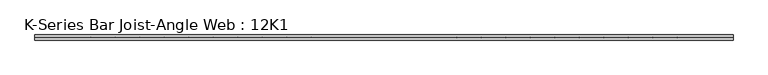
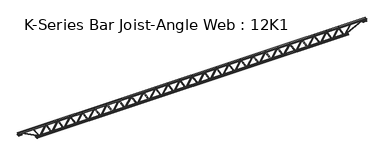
"""IFC4 building model written with IfcOpenShell, lengths in millimetres: beam geometry, K-Series Bar Joist-Angle Web : 12K1."""

from ifc_helpers import new_model, si_unit, frame, origin, place, context, project, spatial, polyline, outline, extrude, faceted_brep, source, transform, mapped, element, save


def k_series_bar_joist_angle_web_12k1_3e4be9d7(model_context):
    return source(origin(), model_context, "Body", "SolidModel", [
        extrude(outline(polyline([(-4.7625, 4.7625), (-4.7625, 0.0), (-17.4625, 0.0), (-17.4625, 4.7625), (-4.7625, 4.7625)])), frame((3964.6713599, 0.0, -114.3), z_axis=(-0.4994326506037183, 0.0, 0.8663527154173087), x_axis=(0.0, -1.0, 0.0)), (0.0, 0.0, 1.0), 263.8648162),
        extrude(outline(polyline([(-149.225, 3996.65825), (-130.175, 3996.65825), (-130.175, 3995.8116713), (149.225, 3834.7439213), (149.225, 3816.5405), (130.175, 3816.5405), (130.175, 3823.7370787), (-149.225, 3984.8048287), (-149.225, 3996.65825)])), frame((0.0, 0.0, 0.0), z_axis=(0.0, 1.0, 0.0), x_axis=(0.0, 0.0, 1.0)), (0.0, 0.0, 1.0), 4.7625),
        faceted_brep([(3649.12275, 0.0, -130.175), (3649.12275, 0.0, -149.225), (3649.12275, -4.7625, -149.225), (3649.12275, -4.7625, -130.175), (3649.9693287, 0.0, -130.175), (3811.0370787, 0.0, 149.225), (3829.2405, 0.0, 149.225), (3829.2405, 0.0, 130.175), (3822.0439213, 0.0, 130.175), (3660.9761713, 0.0, -149.225), (3660.9761713, -4.7625, -149.225), (3681.1096401, -4.7625, -114.3), (3676.9836353, -4.7625, -111.921452), (3808.7663398, -4.7625, 116.678548), (3812.8923446, -4.7625, 114.3), (3822.0439213, -4.7625, 130.175), (3829.2405, -4.7625, 130.175), (3829.2405, -4.7625, 149.225), (3811.0370787, -4.7625, 149.225), (3649.9693287, -4.7625, -130.175), (3812.8923446, -17.4625, 114.3), (3681.1096401, -17.4625, -114.3), (3676.9836353, -17.4625, -111.921452), (3808.7663398, -17.4625, 116.678548)], [[[0, 1, 2, 3]], [[1, 0, 4, 5, 6, 7, 8, 9]], [[2, 1, 9, 10]], [[3, 2, 10, 11, 12, 13, 14, 15, 16, 17, 18, 19]], [[0, 3, 19, 4]], [[9, 8, 15, 14, 20, 21, 11, 10]], [[5, 4, 19, 18]], [[7, 6, 17, 16]], [[8, 7, 16, 15]], [[6, 5, 18, 17]], [[21, 22, 12, 11]], [[20, 14, 13, 23]], [[22, 21, 20, 23]], [[12, 22, 23, 13]]]),
        extrude(outline(polyline([(-4.7625, 4.7625), (-4.7625, 0.0), (-17.4625, 0.0), (-17.4625, 4.7625), (-4.7625, 4.7625)])), frame((3617.1358599, 0.0, -114.3), z_axis=(-0.4994326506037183, 0.0, 0.8663527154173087), x_axis=(0.0, -1.0, 0.0)), (0.0, 0.0, 1.0), 263.8648162),
        extrude(outline(polyline([(-149.225, 3649.12275), (-130.175, 3649.12275), (-130.175, 3648.2761713), (149.225, 3487.2084213), (149.225, 3469.005), (130.175, 3469.005), (130.175, 3476.2015787), (-149.225, 3637.2693287), (-149.225, 3649.12275)])), frame((0.0, 0.0, 0.0), z_axis=(0.0, 1.0, 0.0), x_axis=(0.0, 0.0, 1.0)), (0.0, 0.0, 1.0), 4.7625),
        faceted_brep([(3301.58725, 0.0, -130.175), (3301.58725, 0.0, -149.225), (3301.58725, -4.7625, -149.225), (3301.58725, -4.7625, -130.175), (3302.4338287, 0.0, -130.175), (3463.5015787, 0.0, 149.225), (3481.705, 0.0, 149.225), (3481.705, 0.0, 130.175), (3474.5084213, 0.0, 130.175), (3313.4406713, 0.0, -149.225), (3313.4406713, -4.7625, -149.225), (3333.5741401, -4.7625, -114.3), (3329.4481353, -4.7625, -111.921452), (3461.2308398, -4.7625, 116.678548), (3465.3568446, -4.7625, 114.3), (3474.5084213, -4.7625, 130.175), (3481.705, -4.7625, 130.175), (3481.705, -4.7625, 149.225), (3463.5015787, -4.7625, 149.225), (3302.4338287, -4.7625, -130.175), (3465.3568446, -17.4625, 114.3), (3333.5741401, -17.4625, -114.3), (3329.4481353, -17.4625, -111.921452), (3461.2308398, -17.4625, 116.678548)], [[[0, 1, 2, 3]], [[1, 0, 4, 5, 6, 7, 8, 9]], [[2, 1, 9, 10]], [[3, 2, 10, 11, 12, 13, 14, 15, 16, 17, 18, 19]], [[0, 3, 19, 4]], [[9, 8, 15, 14, 20, 21, 11, 10]], [[5, 4, 19, 18]], [[7, 6, 17, 16]], [[8, 7, 16, 15]], [[6, 5, 18, 17]], [[21, 22, 12, 11]], [[20, 14, 13, 23]], [[22, 21, 20, 23]], [[12, 22, 23, 13]]]),
        extrude(outline(polyline([(-4.7625, 4.7625), (-4.7625, 0.0), (-17.4625, 0.0), (-17.4625, 4.7625), (-4.7625, 4.7625)])), frame((3269.6003599, 0.0, -114.3), z_axis=(-0.4994326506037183, 0.0, 0.8663527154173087), x_axis=(0.0, -1.0, 0.0)), (0.0, 0.0, 1.0), 263.8648162),
        extrude(outline(polyline([(-149.225, 3301.58725), (-130.175, 3301.58725), (-130.175, 3300.7406713), (149.225, 3139.6729213), (149.225, 3121.4695), (130.175, 3121.4695), (130.175, 3128.6660787), (-149.225, 3289.7338287), (-149.225, 3301.58725)])), frame((0.0, 0.0, 0.0), z_axis=(0.0, 1.0, 0.0), x_axis=(0.0, 0.0, 1.0)), (0.0, 0.0, 1.0), 4.7625),
        faceted_brep([(2954.05175, 0.0, -130.175), (2954.05175, 0.0, -149.225), (2954.05175, -4.7625, -149.225), (2954.05175, -4.7625, -130.175), (2954.8983287, 0.0, -130.175), (3115.9660787, 0.0, 149.225), (3134.1695, 0.0, 149.225), (3134.1695, 0.0, 130.175), (3126.9729213, 0.0, 130.175), (2965.9051713, 0.0, -149.225), (2965.9051713, -4.7625, -149.225), (2986.0386401, -4.7625, -114.3), (2981.9126353, -4.7625, -111.921452), (3113.6953398, -4.7625, 116.678548), (3117.8213446, -4.7625, 114.3), (3126.9729213, -4.7625, 130.175), (3134.1695, -4.7625, 130.175), (3134.1695, -4.7625, 149.225), (3115.9660787, -4.7625, 149.225), (2954.8983287, -4.7625, -130.175), (3117.8213446, -17.4625, 114.3), (2986.0386401, -17.4625, -114.3), (2981.9126353, -17.4625, -111.921452), (3113.6953398, -17.4625, 116.678548)], [[[0, 1, 2, 3]], [[1, 0, 4, 5, 6, 7, 8, 9]], [[2, 1, 9, 10]], [[3, 2, 10, 11, 12, 13, 14, 15, 16, 17, 18, 19]], [[0, 3, 19, 4]], [[9, 8, 15, 14, 20, 21, 11, 10]], [[5, 4, 19, 18]], [[7, 6, 17, 16]], [[8, 7, 16, 15]], [[6, 5, 18, 17]], [[21, 22, 12, 11]], [[20, 14, 13, 23]], [[22, 21, 20, 23]], [[12, 22, 23, 13]]]),
        extrude(outline(polyline([(-4.7625, 4.7625), (-4.7625, 0.0), (-17.4625, 0.0), (-17.4625, 4.7625), (-4.7625, 4.7625)])), frame((2922.0648599, 0.0, -114.3), z_axis=(-0.4994326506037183, 0.0, 0.8663527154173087), x_axis=(0.0, -1.0, 0.0)), (0.0, 0.0, 1.0), 263.8648162),
        extrude(outline(polyline([(-149.225, 2954.05175), (-130.175, 2954.05175), (-130.175, 2953.2051713), (149.225, 2792.1374213), (149.225, 2773.934), (130.175, 2773.934), (130.175, 2781.1305787), (-149.225, 2942.1983287), (-149.225, 2954.05175)])), frame((0.0, 0.0, 0.0), z_axis=(0.0, 1.0, 0.0), x_axis=(0.0, 0.0, 1.0)), (0.0, 0.0, 1.0), 4.7625),
        faceted_brep([(2606.51625, 0.0, -130.175), (2606.51625, 0.0, -149.225), (2606.51625, -4.7625, -149.225), (2606.51625, -4.7625, -130.175), (2607.3628287, 0.0, -130.175), (2768.4305787, 0.0, 149.225), (2786.634, 0.0, 149.225), (2786.634, 0.0, 130.175), (2779.4374213, 0.0, 130.175), (2618.3696713, 0.0, -149.225), (2618.3696713, -4.7625, -149.225), (2638.5031401, -4.7625, -114.3), (2634.3771353, -4.7625, -111.921452), (2766.1598398, -4.7625, 116.678548), (2770.2858446, -4.7625, 114.3), (2779.4374213, -4.7625, 130.175), (2786.634, -4.7625, 130.175), (2786.634, -4.7625, 149.225), (2768.4305787, -4.7625, 149.225), (2607.3628287, -4.7625, -130.175), (2770.2858446, -17.4625, 114.3), (2638.5031401, -17.4625, -114.3), (2634.3771353, -17.4625, -111.921452), (2766.1598398, -17.4625, 116.678548)], [[[0, 1, 2, 3]], [[1, 0, 4, 5, 6, 7, 8, 9]], [[2, 1, 9, 10]], [[3, 2, 10, 11, 12, 13, 14, 15, 16, 17, 18, 19]], [[0, 3, 19, 4]], [[9, 8, 15, 14, 20, 21, 11, 10]], [[5, 4, 19, 18]], [[7, 6, 17, 16]], [[8, 7, 16, 15]], [[6, 5, 18, 17]], [[21, 22, 12, 11]], [[20, 14, 13, 23]], [[22, 21, 20, 23]], [[12, 22, 23, 13]]]),
        extrude(outline(polyline([(-4.7625, 4.7625), (-4.7625, 0.0), (-17.4625, 0.0), (-17.4625, 4.7625), (-4.7625, 4.7625)])), frame((2574.5293599, 0.0, -114.3), z_axis=(-0.4994326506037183, 0.0, 0.8663527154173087), x_axis=(0.0, -1.0, 0.0)), (0.0, 0.0, 1.0), 263.8648162),
        extrude(outline(polyline([(-149.225, 2606.51625), (-130.175, 2606.51625), (-130.175, 2605.6696713), (149.225, 2444.6019213), (149.225, 2426.3985), (130.175, 2426.3985), (130.175, 2433.5950787), (-149.225, 2594.6628287), (-149.225, 2606.51625)])), frame((0.0, 0.0, 0.0), z_axis=(0.0, 1.0, 0.0), x_axis=(0.0, 0.0, 1.0)), (0.0, 0.0, 1.0), 4.7625),
        faceted_brep([(2258.98075, 0.0, -130.175), (2258.98075, 0.0, -149.225), (2258.98075, -4.7625, -149.225), (2258.98075, -4.7625, -130.175), (2259.8273287, 0.0, -130.175), (2420.8950787, 0.0, 149.225), (2439.0985, 0.0, 149.225), (2439.0985, 0.0, 130.175), (2431.9019213, 0.0, 130.175), (2270.8341713, 0.0, -149.225), (2270.8341713, -4.7625, -149.225), (2290.9676401, -4.7625, -114.3), (2286.8416353, -4.7625, -111.921452), (2418.6243398, -4.7625, 116.678548), (2422.7503446, -4.7625, 114.3), (2431.9019213, -4.7625, 130.175), (2439.0985, -4.7625, 130.175), (2439.0985, -4.7625, 149.225), (2420.8950787, -4.7625, 149.225), (2259.8273287, -4.7625, -130.175), (2422.7503446, -17.4625, 114.3), (2290.9676401, -17.4625, -114.3), (2286.8416353, -17.4625, -111.921452), (2418.6243398, -17.4625, 116.678548)], [[[0, 1, 2, 3]], [[1, 0, 4, 5, 6, 7, 8, 9]], [[2, 1, 9, 10]], [[3, 2, 10, 11, 12, 13, 14, 15, 16, 17, 18, 19]], [[0, 3, 19, 4]], [[9, 8, 15, 14, 20, 21, 11, 10]], [[5, 4, 19, 18]], [[7, 6, 17, 16]], [[8, 7, 16, 15]], [[6, 5, 18, 17]], [[21, 22, 12, 11]], [[20, 14, 13, 23]], [[22, 21, 20, 23]], [[12, 22, 23, 13]]]),
        extrude(outline(polyline([(-4.7625, 4.7625), (-4.7625, 0.0), (-17.4625, 0.0), (-17.4625, 4.7625), (-4.7625, 4.7625)])), frame((2226.9938599, 0.0, -114.3), z_axis=(-0.4994326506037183, 0.0, 0.8663527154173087), x_axis=(0.0, -1.0, 0.0)), (0.0, 0.0, 1.0), 263.8648162),
        extrude(outline(polyline([(-149.225, 2258.98075), (-130.175, 2258.98075), (-130.175, 2258.1341713), (149.225, 2097.0664213), (149.225, 2078.863), (130.175, 2078.863), (130.175, 2086.0595787), (-149.225, 2247.1273287), (-149.225, 2258.98075)])), frame((0.0, 0.0, 0.0), z_axis=(0.0, 1.0, 0.0), x_axis=(0.0, 0.0, 1.0)), (0.0, 0.0, 1.0), 4.7625),
        faceted_brep([(1911.44525, 0.0, -130.175), (1911.44525, 0.0, -149.225), (1911.44525, -4.7625, -149.225), (1911.44525, -4.7625, -130.175), (1912.2918287, 0.0, -130.175), (2073.3595787, 0.0, 149.225), (2091.563, 0.0, 149.225), (2091.563, 0.0, 130.175), (2084.3664213, 0.0, 130.175), (1923.2986713, 0.0, -149.225), (1923.2986713, -4.7625, -149.225), (1943.4321401, -4.7625, -114.3), (1939.3061353, -4.7625, -111.921452), (2071.0888398, -4.7625, 116.678548), (2075.2148446, -4.7625, 114.3), (2084.3664213, -4.7625, 130.175), (2091.563, -4.7625, 130.175), (2091.563, -4.7625, 149.225), (2073.3595787, -4.7625, 149.225), (1912.2918287, -4.7625, -130.175), (2075.2148446, -17.4625, 114.3), (1943.4321401, -17.4625, -114.3), (1939.3061353, -17.4625, -111.921452), (2071.0888398, -17.4625, 116.678548)], [[[0, 1, 2, 3]], [[1, 0, 4, 5, 6, 7, 8, 9]], [[2, 1, 9, 10]], [[3, 2, 10, 11, 12, 13, 14, 15, 16, 17, 18, 19]], [[0, 3, 19, 4]], [[9, 8, 15, 14, 20, 21, 11, 10]], [[5, 4, 19, 18]], [[7, 6, 17, 16]], [[8, 7, 16, 15]], [[6, 5, 18, 17]], [[21, 22, 12, 11]], [[20, 14, 13, 23]], [[22, 21, 20, 23]], [[12, 22, 23, 13]]]),
        extrude(outline(polyline([(-4.7625, 4.7625), (-4.7625, 0.0), (-17.4625, 0.0), (-17.4625, 4.7625), (-4.7625, 4.7625)])), frame((1879.4583599, 0.0, -114.3), z_axis=(-0.4994326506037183, 0.0, 0.8663527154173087), x_axis=(0.0, -1.0, 0.0)), (0.0, 0.0, 1.0), 263.8648162),
        extrude(outline(polyline([(-149.225, 1911.44525), (-130.175, 1911.44525), (-130.175, 1910.5986713), (149.225, 1749.5309213), (149.225, 1731.3275), (130.175, 1731.3275), (130.175, 1738.5240787), (-149.225, 1899.5918287), (-149.225, 1911.44525)])), frame((0.0, 0.0, 0.0), z_axis=(0.0, 1.0, 0.0), x_axis=(0.0, 0.0, 1.0)), (0.0, 0.0, 1.0), 4.7625),
        faceted_brep([(1563.90975, 0.0, -130.175), (1563.90975, 0.0, -149.225), (1563.90975, -4.7625, -149.225), (1563.90975, -4.7625, -130.175), (1564.7563287, 0.0, -130.175), (1725.8240787, 0.0, 149.225), (1744.0275, 0.0, 149.225), (1744.0275, 0.0, 130.175), (1736.8309213, 0.0, 130.175), (1575.7631713, 0.0, -149.225), (1575.7631713, -4.7625, -149.225), (1595.8966401, -4.7625, -114.3), (1591.7706353, -4.7625, -111.921452), (1723.5533398, -4.7625, 116.678548), (1727.6793446, -4.7625, 114.3), (1736.8309213, -4.7625, 130.175), (1744.0275, -4.7625, 130.175), (1744.0275, -4.7625, 149.225), (1725.8240787, -4.7625, 149.225), (1564.7563287, -4.7625, -130.175), (1727.6793446, -17.4625, 114.3), (1595.8966401, -17.4625, -114.3), (1591.7706353, -17.4625, -111.921452), (1723.5533398, -17.4625, 116.678548)], [[[0, 1, 2, 3]], [[1, 0, 4, 5, 6, 7, 8, 9]], [[2, 1, 9, 10]], [[3, 2, 10, 11, 12, 13, 14, 15, 16, 17, 18, 19]], [[0, 3, 19, 4]], [[9, 8, 15, 14, 20, 21, 11, 10]], [[5, 4, 19, 18]], [[7, 6, 17, 16]], [[8, 7, 16, 15]], [[6, 5, 18, 17]], [[21, 22, 12, 11]], [[20, 14, 13, 23]], [[22, 21, 20, 23]], [[12, 22, 23, 13]]]),
        extrude(outline(polyline([(-4.7625, 4.7625), (-4.7625, 0.0), (-17.4625, 0.0), (-17.4625, 4.7625), (-4.7625, 4.7625)])), frame((1531.9228599, 0.0, -114.3), z_axis=(-0.4994326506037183, 0.0, 0.8663527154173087), x_axis=(0.0, -1.0, 0.0)), (0.0, 0.0, 1.0), 263.8648162),
        extrude(outline(polyline([(-149.225, 1563.90975), (-130.175, 1563.90975), (-130.175, 1563.0631713), (149.225, 1401.9954213), (149.225, 1383.792), (130.175, 1383.792), (130.175, 1390.9885787), (-149.225, 1552.0563287), (-149.225, 1563.90975)])), frame((0.0, 0.0, 0.0), z_axis=(0.0, 1.0, 0.0), x_axis=(0.0, 0.0, 1.0)), (0.0, 0.0, 1.0), 4.7625),
        faceted_brep([(1216.37425, 0.0, -130.175), (1216.37425, 0.0, -149.225), (1216.37425, -4.7625, -149.225), (1216.37425, -4.7625, -130.175), (1217.2208287, 0.0, -130.175), (1378.2885787, 0.0, 149.225), (1396.492, 0.0, 149.225), (1396.492, 0.0, 130.175), (1389.2954213, 0.0, 130.175), (1228.2276713, 0.0, -149.225), (1228.2276713, -4.7625, -149.225), (1248.3611401, -4.7625, -114.3), (1244.2351353, -4.7625, -111.921452), (1376.0178398, -4.7625, 116.678548), (1380.1438446, -4.7625, 114.3), (1389.2954213, -4.7625, 130.175), (1396.492, -4.7625, 130.175), (1396.492, -4.7625, 149.225), (1378.2885787, -4.7625, 149.225), (1217.2208287, -4.7625, -130.175), (1380.1438446, -17.4625, 114.3), (1248.3611401, -17.4625, -114.3), (1244.2351353, -17.4625, -111.921452), (1376.0178398, -17.4625, 116.678548)], [[[0, 1, 2, 3]], [[1, 0, 4, 5, 6, 7, 8, 9]], [[2, 1, 9, 10]], [[3, 2, 10, 11, 12, 13, 14, 15, 16, 17, 18, 19]], [[0, 3, 19, 4]], [[9, 8, 15, 14, 20, 21, 11, 10]], [[5, 4, 19, 18]], [[7, 6, 17, 16]], [[8, 7, 16, 15]], [[6, 5, 18, 17]], [[21, 22, 12, 11]], [[20, 14, 13, 23]], [[22, 21, 20, 23]], [[12, 22, 23, 13]]]),
        extrude(outline(polyline([(-4.7625, 4.7625), (-4.7625, 0.0), (-17.4625, 0.0), (-17.4625, 4.7625), (-4.7625, 4.7625)])), frame((1184.3873599, 0.0, -114.3), z_axis=(-0.4994326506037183, 0.0, 0.8663527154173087), x_axis=(0.0, -1.0, 0.0)), (0.0, 0.0, 1.0), 263.8648162),
        extrude(outline(polyline([(-149.225, 1216.37425), (-130.175, 1216.37425), (-130.175, 1215.5276713), (149.225, 1054.4599213), (149.225, 1036.2565), (130.175, 1036.2565), (130.175, 1043.4530787), (-149.225, 1204.5208287), (-149.225, 1216.37425)])), frame((0.0, 0.0, 0.0), z_axis=(0.0, 1.0, 0.0), x_axis=(0.0, 0.0, 1.0)), (0.0, 0.0, 1.0), 4.7625),
        faceted_brep([(868.83875, 0.0, -130.175), (868.83875, 0.0, -149.225), (868.83875, -4.7625, -149.225), (868.83875, -4.7625, -130.175), (869.6853287, 0.0, -130.175), (1030.7530787, 0.0, 149.225), (1048.9565, 0.0, 149.225), (1048.9565, 0.0, 130.175), (1041.7599213, 0.0, 130.175), (880.6921713, 0.0, -149.225), (880.6921713, -4.7625, -149.225), (900.8256401, -4.7625, -114.3), (896.6996353, -4.7625, -111.921452), (1028.4823398, -4.7625, 116.678548), (1032.6083446, -4.7625, 114.3), (1041.7599213, -4.7625, 130.175), (1048.9565, -4.7625, 130.175), (1048.9565, -4.7625, 149.225), (1030.7530787, -4.7625, 149.225), (869.6853287, -4.7625, -130.175), (1032.6083446, -17.4625, 114.3), (900.8256401, -17.4625, -114.3), (896.6996353, -17.4625, -111.921452), (1028.4823398, -17.4625, 116.678548)], [[[0, 1, 2, 3]], [[1, 0, 4, 5, 6, 7, 8, 9]], [[2, 1, 9, 10]], [[3, 2, 10, 11, 12, 13, 14, 15, 16, 17, 18, 19]], [[0, 3, 19, 4]], [[9, 8, 15, 14, 20, 21, 11, 10]], [[5, 4, 19, 18]], [[7, 6, 17, 16]], [[8, 7, 16, 15]], [[6, 5, 18, 17]], [[21, 22, 12, 11]], [[20, 14, 13, 23]], [[22, 21, 20, 23]], [[12, 22, 23, 13]]]),
        extrude(outline(polyline([(-4.7625, 4.7625), (-4.7625, 0.0), (-17.4625, 0.0), (-17.4625, 4.7625), (-4.7625, 4.7625)])), frame((836.8518599, 0.0, -114.3), z_axis=(-0.4994326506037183, 0.0, 0.8663527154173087), x_axis=(0.0, -1.0, 0.0)), (0.0, 0.0, 1.0), 263.8648162),
        extrude(outline(polyline([(-149.225, 868.83875), (-130.175, 868.83875), (-130.175, 867.9921713), (149.225, 706.9244213), (149.225, 688.721), (130.175, 688.721), (130.175, 695.9175787), (-149.225, 856.9853287), (-149.225, 868.83875)])), frame((0.0, 0.0, 0.0), z_axis=(0.0, 1.0, 0.0), x_axis=(0.0, 0.0, 1.0)), (0.0, 0.0, 1.0), 4.7625),
        faceted_brep([(521.30325, 0.0, -130.175), (521.30325, 0.0, -149.225), (521.30325, -4.7625, -149.225), (521.30325, -4.7625, -130.175), (522.1498287, 0.0, -130.175), (683.2175787, 0.0, 149.225), (701.421, 0.0, 149.225), (701.421, 0.0, 130.175), (694.2244213, 0.0, 130.175), (533.1566713, 0.0, -149.225), (533.1566713, -4.7625, -149.225), (553.2901401, -4.7625, -114.3), (549.1641353, -4.7625, -111.921452), (680.9468398, -4.7625, 116.678548), (685.0728446, -4.7625, 114.3), (694.2244213, -4.7625, 130.175), (701.421, -4.7625, 130.175), (701.421, -4.7625, 149.225), (683.2175787, -4.7625, 149.225), (522.1498287, -4.7625, -130.175), (685.0728446, -17.4625, 114.3), (553.2901401, -17.4625, -114.3), (549.1641353, -17.4625, -111.921452), (680.9468398, -17.4625, 116.678548)], [[[0, 1, 2, 3]], [[1, 0, 4, 5, 6, 7, 8, 9]], [[2, 1, 9, 10]], [[3, 2, 10, 11, 12, 13, 14, 15, 16, 17, 18, 19]], [[0, 3, 19, 4]], [[9, 8, 15, 14, 20, 21, 11, 10]], [[5, 4, 19, 18]], [[7, 6, 17, 16]], [[8, 7, 16, 15]], [[6, 5, 18, 17]], [[21, 22, 12, 11]], [[20, 14, 13, 23]], [[22, 21, 20, 23]], [[12, 22, 23, 13]]]),
        extrude(outline(polyline([(-4.7625, 4.7625), (-4.7625, 0.0), (-17.4625, 0.0), (-17.4625, 4.7625), (-4.7625, 4.7625)])), frame((489.3163599, 0.0, -114.3), z_axis=(-0.4994326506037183, 0.0, 0.8663527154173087), x_axis=(0.0, -1.0, 0.0)), (0.0, 0.0, 1.0), 263.8648162),
        extrude(outline(polyline([(-149.225, 521.30325), (-130.175, 521.30325), (-130.175, 520.4566713), (149.225, 359.3889213), (149.225, 341.1855), (130.175, 341.1855), (130.175, 348.3820787), (-149.225, 509.4498287), (-149.225, 521.30325)])), frame((0.0, 0.0, 0.0), z_axis=(0.0, 1.0, 0.0), x_axis=(0.0, 0.0, 1.0)), (0.0, 0.0, 1.0), 4.7625),
        faceted_brep([(173.76775, 0.0, -130.175), (173.76775, 0.0, -149.225), (173.76775, -4.7625, -149.225), (173.76775, -4.7625, -130.175), (174.6143287, 0.0, -130.175), (335.6820787, 0.0, 149.225), (353.8855, 0.0, 149.225), (353.8855, 0.0, 130.175), (346.6889213, 0.0, 130.175), (185.6211713, 0.0, -149.225), (185.6211713, -4.7625, -149.225), (205.7546401, -4.7625, -114.3), (201.6286353, -4.7625, -111.921452), (333.4113398, -4.7625, 116.678548), (337.5373446, -4.7625, 114.3), (346.6889213, -4.7625, 130.175), (353.8855, -4.7625, 130.175), (353.8855, -4.7625, 149.225), (335.6820787, -4.7625, 149.225), (174.6143287, -4.7625, -130.175), (337.5373446, -17.4625, 114.3), (205.7546401, -17.4625, -114.3), (201.6286353, -17.4625, -111.921452), (333.4113398, -17.4625, 116.678548)], [[[0, 1, 2, 3]], [[1, 0, 4, 5, 6, 7, 8, 9]], [[2, 1, 9, 10]], [[3, 2, 10, 11, 12, 13, 14, 15, 16, 17, 18, 19]], [[0, 3, 19, 4]], [[9, 8, 15, 14, 20, 21, 11, 10]], [[5, 4, 19, 18]], [[7, 6, 17, 16]], [[8, 7, 16, 15]], [[6, 5, 18, 17]], [[21, 22, 12, 11]], [[20, 14, 13, 23]], [[22, 21, 20, 23]], [[12, 22, 23, 13]]]),
        extrude(outline(polyline([(-4.7625, 4.7625), (-4.7625, 0.0), (-17.4625, 0.0), (-17.4625, 4.7625), (-4.7625, 4.7625)])), frame((141.7808599, 0.0, -114.3), z_axis=(-0.4994326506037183, 0.0, 0.8663527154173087), x_axis=(0.0, -1.0, 0.0)), (0.0, 0.0, 1.0), 263.8648162),
        extrude(outline(polyline([(-149.225, 173.76775), (-130.175, 173.76775), (-130.175, 172.9211713), (149.225, 11.8534213), (149.225, -6.35), (130.175, -6.35), (130.175, 0.8465787), (-149.225, 161.9143287), (-149.225, 173.76775)])), frame((0.0, 0.0, 0.0), z_axis=(0.0, 1.0, 0.0), x_axis=(0.0, 0.0, 1.0)), (0.0, 0.0, 1.0), 4.7625),
        faceted_brep([(-173.76775, 0.0, -130.175), (-173.76775, 0.0, -149.225), (-173.76775, -4.7625, -149.225), (-173.76775, -4.7625, -130.175), (-172.9211713, 0.0, -130.175), (-11.8534213, 0.0, 149.225), (6.35, 0.0, 149.225), (6.35, 0.0, 130.175), (-0.8465787, 0.0, 130.175), (-161.9143287, 0.0, -149.225), (-161.9143287, -4.7625, -149.225), (-141.7808599, -4.7625, -114.3), (-145.9068647, -4.7625, -111.921452), (-14.1241602, -4.7625, 116.678548), (-9.9981554, -4.7625, 114.3), (-0.8465787, -4.7625, 130.175), (6.35, -4.7625, 130.175), (6.35, -4.7625, 149.225), (-11.8534213, -4.7625, 149.225), (-172.9211713, -4.7625, -130.175), (-9.9981554, -17.4625, 114.3), (-141.7808599, -17.4625, -114.3), (-145.9068647, -17.4625, -111.921452), (-14.1241602, -17.4625, 116.678548)], [[[0, 1, 2, 3]], [[1, 0, 4, 5, 6, 7, 8, 9]], [[2, 1, 9, 10]], [[3, 2, 10, 11, 12, 13, 14, 15, 16, 17, 18, 19]], [[0, 3, 19, 4]], [[9, 8, 15, 14, 20, 21, 11, 10]], [[5, 4, 19, 18]], [[7, 6, 17, 16]], [[8, 7, 16, 15]], [[6, 5, 18, 17]], [[21, 22, 12, 11]], [[20, 14, 13, 23]], [[22, 21, 20, 23]], [[12, 22, 23, 13]]]),
        extrude(outline(polyline([(-4.7625, 4.7625), (-4.7625, 0.0), (-17.4625, 0.0), (-17.4625, 4.7625), (-4.7625, 4.7625)])), frame((-205.7546401, 0.0, -114.3), z_axis=(-0.4994326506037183, 0.0, 0.8663527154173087), x_axis=(0.0, -1.0, 0.0)), (0.0, 0.0, 1.0), 263.8648162),
        extrude(outline(polyline([(-149.225, -173.76775), (-130.175, -173.76775), (-130.175, -174.6143287), (149.225, -335.6820787), (149.225, -353.8855), (130.175, -353.8855), (130.175, -346.6889213), (-149.225, -185.6211713), (-149.225, -173.76775)])), frame((0.0, 0.0, 0.0), z_axis=(0.0, 1.0, 0.0), x_axis=(0.0, 0.0, 1.0)), (0.0, 0.0, 1.0), 4.7625),
        faceted_brep([(-521.30325, 0.0, -130.175), (-521.30325, 0.0, -149.225), (-521.30325, -4.7625, -149.225), (-521.30325, -4.7625, -130.175), (-520.4566713, 0.0, -130.175), (-359.3889213, 0.0, 149.225), (-341.1855, 0.0, 149.225), (-341.1855, 0.0, 130.175), (-348.3820787, 0.0, 130.175), (-509.4498287, 0.0, -149.225), (-509.4498287, -4.7625, -149.225), (-489.3163599, -4.7625, -114.3), (-493.4423647, -4.7625, -111.921452), (-361.6596602, -4.7625, 116.678548), (-357.5336554, -4.7625, 114.3), (-348.3820787, -4.7625, 130.175), (-341.1855, -4.7625, 130.175), (-341.1855, -4.7625, 149.225), (-359.3889213, -4.7625, 149.225), (-520.4566713, -4.7625, -130.175), (-357.5336554, -17.4625, 114.3), (-489.3163599, -17.4625, -114.3), (-493.4423647, -17.4625, -111.921452), (-361.6596602, -17.4625, 116.678548)], [[[0, 1, 2, 3]], [[1, 0, 4, 5, 6, 7, 8, 9]], [[2, 1, 9, 10]], [[3, 2, 10, 11, 12, 13, 14, 15, 16, 17, 18, 19]], [[0, 3, 19, 4]], [[9, 8, 15, 14, 20, 21, 11, 10]], [[5, 4, 19, 18]], [[7, 6, 17, 16]], [[8, 7, 16, 15]], [[6, 5, 18, 17]], [[21, 22, 12, 11]], [[20, 14, 13, 23]], [[22, 21, 20, 23]], [[12, 22, 23, 13]]]),
        extrude(outline(polyline([(-4.7625, 4.7625), (-4.7625, 0.0), (-17.4625, 0.0), (-17.4625, 4.7625), (-4.7625, 4.7625)])), frame((-553.2901401, 0.0, -114.3), z_axis=(-0.4994326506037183, 0.0, 0.8663527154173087), x_axis=(0.0, -1.0, 0.0)), (0.0, 0.0, 1.0), 263.8648162),
        extrude(outline(polyline([(-149.225, -521.30325), (-130.175, -521.30325), (-130.175, -522.1498287), (149.225, -683.2175787), (149.225, -701.421), (130.175, -701.421), (130.175, -694.2244213), (-149.225, -533.1566713), (-149.225, -521.30325)])), frame((0.0, 0.0, 0.0), z_axis=(0.0, 1.0, 0.0), x_axis=(0.0, 0.0, 1.0)), (0.0, 0.0, 1.0), 4.7625),
        faceted_brep([(-868.83875, 0.0, -130.175), (-868.83875, 0.0, -149.225), (-868.83875, -4.7625, -149.225), (-868.83875, -4.7625, -130.175), (-867.9921713, 0.0, -130.175), (-706.9244213, 0.0, 149.225), (-688.721, 0.0, 149.225), (-688.721, 0.0, 130.175), (-695.9175787, 0.0, 130.175), (-856.9853287, 0.0, -149.225), (-856.9853287, -4.7625, -149.225), (-836.8518599, -4.7625, -114.3), (-840.9778647, -4.7625, -111.921452), (-709.1951602, -4.7625, 116.678548), (-705.0691554, -4.7625, 114.3), (-695.9175787, -4.7625, 130.175), (-688.721, -4.7625, 130.175), (-688.721, -4.7625, 149.225), (-706.9244213, -4.7625, 149.225), (-867.9921713, -4.7625, -130.175), (-705.0691554, -17.4625, 114.3), (-836.8518599, -17.4625, -114.3), (-840.9778647, -17.4625, -111.921452), (-709.1951602, -17.4625, 116.678548)], [[[0, 1, 2, 3]], [[1, 0, 4, 5, 6, 7, 8, 9]], [[2, 1, 9, 10]], [[3, 2, 10, 11, 12, 13, 14, 15, 16, 17, 18, 19]], [[0, 3, 19, 4]], [[9, 8, 15, 14, 20, 21, 11, 10]], [[5, 4, 19, 18]], [[7, 6, 17, 16]], [[8, 7, 16, 15]], [[6, 5, 18, 17]], [[21, 22, 12, 11]], [[20, 14, 13, 23]], [[22, 21, 20, 23]], [[12, 22, 23, 13]]]),
        extrude(outline(polyline([(-4.7625, 4.7625), (-4.7625, 0.0), (-17.4625, 0.0), (-17.4625, 4.7625), (-4.7625, 4.7625)])), frame((-900.8256401, 0.0, -114.3), z_axis=(-0.4994326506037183, 0.0, 0.8663527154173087), x_axis=(0.0, -1.0, 0.0)), (0.0, 0.0, 1.0), 263.8648162),
        extrude(outline(polyline([(-149.225, -868.83875), (-130.175, -868.83875), (-130.175, -869.6853287), (149.225, -1030.7530787), (149.225, -1048.9565), (130.175, -1048.9565), (130.175, -1041.7599213), (-149.225, -880.6921713), (-149.225, -868.83875)])), frame((0.0, 0.0, 0.0), z_axis=(0.0, 1.0, 0.0), x_axis=(0.0, 0.0, 1.0)), (0.0, 0.0, 1.0), 4.7625),
        faceted_brep([(-1216.37425, 0.0, -130.175), (-1216.37425, 0.0, -149.225), (-1216.37425, -4.7625, -149.225), (-1216.37425, -4.7625, -130.175), (-1215.5276713, 0.0, -130.175), (-1054.4599213, 0.0, 149.225), (-1036.2565, 0.0, 149.225), (-1036.2565, 0.0, 130.175), (-1043.4530787, 0.0, 130.175), (-1204.5208287, 0.0, -149.225), (-1204.5208287, -4.7625, -149.225), (-1184.3873599, -4.7625, -114.3), (-1188.5133647, -4.7625, -111.921452), (-1056.7306602, -4.7625, 116.678548), (-1052.6046554, -4.7625, 114.3), (-1043.4530787, -4.7625, 130.175), (-1036.2565, -4.7625, 130.175), (-1036.2565, -4.7625, 149.225), (-1054.4599213, -4.7625, 149.225), (-1215.5276713, -4.7625, -130.175), (-1052.6046554, -17.4625, 114.3), (-1184.3873599, -17.4625, -114.3), (-1188.5133647, -17.4625, -111.921452), (-1056.7306602, -17.4625, 116.678548)], [[[0, 1, 2, 3]], [[1, 0, 4, 5, 6, 7, 8, 9]], [[2, 1, 9, 10]], [[3, 2, 10, 11, 12, 13, 14, 15, 16, 17, 18, 19]], [[0, 3, 19, 4]], [[9, 8, 15, 14, 20, 21, 11, 10]], [[5, 4, 19, 18]], [[7, 6, 17, 16]], [[8, 7, 16, 15]], [[6, 5, 18, 17]], [[21, 22, 12, 11]], [[20, 14, 13, 23]], [[22, 21, 20, 23]], [[12, 22, 23, 13]]]),
        extrude(outline(polyline([(-4.7625, 4.7625), (-4.7625, 0.0), (-17.4625, 0.0), (-17.4625, 4.7625), (-4.7625, 4.7625)])), frame((-1248.3611401, 0.0, -114.3), z_axis=(-0.4994326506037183, 0.0, 0.8663527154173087), x_axis=(0.0, -1.0, 0.0)), (0.0, 0.0, 1.0), 263.8648162),
        extrude(outline(polyline([(-149.225, -1216.37425), (-130.175, -1216.37425), (-130.175, -1217.2208287), (149.225, -1378.2885787), (149.225, -1396.492), (130.175, -1396.492), (130.175, -1389.2954213), (-149.225, -1228.2276713), (-149.225, -1216.37425)])), frame((0.0, 0.0, 0.0), z_axis=(0.0, 1.0, 0.0), x_axis=(0.0, 0.0, 1.0)), (0.0, 0.0, 1.0), 4.7625),
        faceted_brep([(-1563.90975, 0.0, -130.175), (-1563.90975, 0.0, -149.225), (-1563.90975, -4.7625, -149.225), (-1563.90975, -4.7625, -130.175), (-1563.0631713, 0.0, -130.175), (-1401.9954213, 0.0, 149.225), (-1383.792, 0.0, 149.225), (-1383.792, 0.0, 130.175), (-1390.9885787, 0.0, 130.175), (-1552.0563287, 0.0, -149.225), (-1552.0563287, -4.7625, -149.225), (-1531.9228599, -4.7625, -114.3), (-1536.0488647, -4.7625, -111.921452), (-1404.2661602, -4.7625, 116.678548), (-1400.1401554, -4.7625, 114.3), (-1390.9885787, -4.7625, 130.175), (-1383.792, -4.7625, 130.175), (-1383.792, -4.7625, 149.225), (-1401.9954213, -4.7625, 149.225), (-1563.0631713, -4.7625, -130.175), (-1400.1401554, -17.4625, 114.3), (-1531.9228599, -17.4625, -114.3), (-1536.0488647, -17.4625, -111.921452), (-1404.2661602, -17.4625, 116.678548)], [[[0, 1, 2, 3]], [[1, 0, 4, 5, 6, 7, 8, 9]], [[2, 1, 9, 10]], [[3, 2, 10, 11, 12, 13, 14, 15, 16, 17, 18, 19]], [[0, 3, 19, 4]], [[9, 8, 15, 14, 20, 21, 11, 10]], [[5, 4, 19, 18]], [[7, 6, 17, 16]], [[8, 7, 16, 15]], [[6, 5, 18, 17]], [[21, 22, 12, 11]], [[20, 14, 13, 23]], [[22, 21, 20, 23]], [[12, 22, 23, 13]]]),
        extrude(outline(polyline([(-4.7625, 4.7625), (-4.7625, 0.0), (-17.4625, 0.0), (-17.4625, 4.7625), (-4.7625, 4.7625)])), frame((-1595.8966401, 0.0, -114.3), z_axis=(-0.4994326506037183, 0.0, 0.8663527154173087), x_axis=(0.0, -1.0, 0.0)), (0.0, 0.0, 1.0), 263.8648162),
        extrude(outline(polyline([(-149.225, -1563.90975), (-130.175, -1563.90975), (-130.175, -1564.7563287), (149.225, -1725.8240787), (149.225, -1744.0275), (130.175, -1744.0275), (130.175, -1736.8309213), (-149.225, -1575.7631713), (-149.225, -1563.90975)])), frame((0.0, 0.0, 0.0), z_axis=(0.0, 1.0, 0.0), x_axis=(0.0, 0.0, 1.0)), (0.0, 0.0, 1.0), 4.7625),
        faceted_brep([(-1911.44525, 0.0, -130.175), (-1911.44525, 0.0, -149.225), (-1911.44525, -4.7625, -149.225), (-1911.44525, -4.7625, -130.175), (-1910.5986713, 0.0, -130.175), (-1749.5309213, 0.0, 149.225), (-1731.3275, 0.0, 149.225), (-1731.3275, 0.0, 130.175), (-1738.5240787, 0.0, 130.175), (-1899.5918287, 0.0, -149.225), (-1899.5918287, -4.7625, -149.225), (-1879.4583599, -4.7625, -114.3), (-1883.5843647, -4.7625, -111.921452), (-1751.8016602, -4.7625, 116.678548), (-1747.6756554, -4.7625, 114.3), (-1738.5240787, -4.7625, 130.175), (-1731.3275, -4.7625, 130.175), (-1731.3275, -4.7625, 149.225), (-1749.5309213, -4.7625, 149.225), (-1910.5986713, -4.7625, -130.175), (-1747.6756554, -17.4625, 114.3), (-1879.4583599, -17.4625, -114.3), (-1883.5843647, -17.4625, -111.921452), (-1751.8016602, -17.4625, 116.678548)], [[[0, 1, 2, 3]], [[1, 0, 4, 5, 6, 7, 8, 9]], [[2, 1, 9, 10]], [[3, 2, 10, 11, 12, 13, 14, 15, 16, 17, 18, 19]], [[0, 3, 19, 4]], [[9, 8, 15, 14, 20, 21, 11, 10]], [[5, 4, 19, 18]], [[7, 6, 17, 16]], [[8, 7, 16, 15]], [[6, 5, 18, 17]], [[21, 22, 12, 11]], [[20, 14, 13, 23]], [[22, 21, 20, 23]], [[12, 22, 23, 13]]]),
        extrude(outline(polyline([(-4.7625, 4.7625), (-4.7625, 0.0), (-17.4625, 0.0), (-17.4625, 4.7625), (-4.7625, 4.7625)])), frame((-1943.4321401, 0.0, -114.3), z_axis=(-0.4994326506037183, 0.0, 0.8663527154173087), x_axis=(0.0, -1.0, 0.0)), (0.0, 0.0, 1.0), 263.8648162),
        extrude(outline(polyline([(-149.225, -1911.44525), (-130.175, -1911.44525), (-130.175, -1912.2918287), (149.225, -2073.3595787), (149.225, -2091.563), (130.175, -2091.563), (130.175, -2084.3664213), (-149.225, -1923.2986713), (-149.225, -1911.44525)])), frame((0.0, 0.0, 0.0), z_axis=(0.0, 1.0, 0.0), x_axis=(0.0, 0.0, 1.0)), (0.0, 0.0, 1.0), 4.7625),
        faceted_brep([(-2258.98075, 0.0, -130.175), (-2258.98075, 0.0, -149.225), (-2258.98075, -4.7625, -149.225), (-2258.98075, -4.7625, -130.175), (-2258.1341713, 0.0, -130.175), (-2097.0664213, 0.0, 149.225), (-2078.863, 0.0, 149.225), (-2078.863, 0.0, 130.175), (-2086.0595787, 0.0, 130.175), (-2247.1273287, 0.0, -149.225), (-2247.1273287, -4.7625, -149.225), (-2226.9938599, -4.7625, -114.3), (-2231.1198647, -4.7625, -111.921452), (-2099.3371602, -4.7625, 116.678548), (-2095.2111554, -4.7625, 114.3), (-2086.0595787, -4.7625, 130.175), (-2078.863, -4.7625, 130.175), (-2078.863, -4.7625, 149.225), (-2097.0664213, -4.7625, 149.225), (-2258.1341713, -4.7625, -130.175), (-2095.2111554, -17.4625, 114.3), (-2226.9938599, -17.4625, -114.3), (-2231.1198647, -17.4625, -111.921452), (-2099.3371602, -17.4625, 116.678548)], [[[0, 1, 2, 3]], [[1, 0, 4, 5, 6, 7, 8, 9]], [[2, 1, 9, 10]], [[3, 2, 10, 11, 12, 13, 14, 15, 16, 17, 18, 19]], [[0, 3, 19, 4]], [[9, 8, 15, 14, 20, 21, 11, 10]], [[5, 4, 19, 18]], [[7, 6, 17, 16]], [[8, 7, 16, 15]], [[6, 5, 18, 17]], [[21, 22, 12, 11]], [[20, 14, 13, 23]], [[22, 21, 20, 23]], [[12, 22, 23, 13]]]),
        extrude(outline(polyline([(-4.7625, 4.7625), (-4.7625, 0.0), (-17.4625, 0.0), (-17.4625, 4.7625), (-4.7625, 4.7625)])), frame((-2290.9676401, 0.0, -114.3), z_axis=(-0.4994326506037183, 0.0, 0.8663527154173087), x_axis=(0.0, -1.0, 0.0)), (0.0, 0.0, 1.0), 263.8648162),
        extrude(outline(polyline([(-149.225, -2258.98075), (-130.175, -2258.98075), (-130.175, -2259.8273287), (149.225, -2420.8950787), (149.225, -2439.0985), (130.175, -2439.0985), (130.175, -2431.9019213), (-149.225, -2270.8341713), (-149.225, -2258.98075)])), frame((0.0, 0.0, 0.0), z_axis=(0.0, 1.0, 0.0), x_axis=(0.0, 0.0, 1.0)), (0.0, 0.0, 1.0), 4.7625),
        faceted_brep([(-2606.51625, 0.0, -130.175), (-2606.51625, 0.0, -149.225), (-2606.51625, -4.7625, -149.225), (-2606.51625, -4.7625, -130.175), (-2605.6696713, 0.0, -130.175), (-2444.6019213, 0.0, 149.225), (-2426.3985, 0.0, 149.225), (-2426.3985, 0.0, 130.175), (-2433.5950787, 0.0, 130.175), (-2594.6628287, 0.0, -149.225), (-2594.6628287, -4.7625, -149.225), (-2574.5293599, -4.7625, -114.3), (-2578.6553647, -4.7625, -111.921452), (-2446.8726602, -4.7625, 116.678548), (-2442.7466554, -4.7625, 114.3), (-2433.5950787, -4.7625, 130.175), (-2426.3985, -4.7625, 130.175), (-2426.3985, -4.7625, 149.225), (-2444.6019213, -4.7625, 149.225), (-2605.6696713, -4.7625, -130.175), (-2442.7466554, -17.4625, 114.3), (-2574.5293599, -17.4625, -114.3), (-2578.6553647, -17.4625, -111.921452), (-2446.8726602, -17.4625, 116.678548)], [[[0, 1, 2, 3]], [[1, 0, 4, 5, 6, 7, 8, 9]], [[2, 1, 9, 10]], [[3, 2, 10, 11, 12, 13, 14, 15, 16, 17, 18, 19]], [[0, 3, 19, 4]], [[9, 8, 15, 14, 20, 21, 11, 10]], [[5, 4, 19, 18]], [[7, 6, 17, 16]], [[8, 7, 16, 15]], [[6, 5, 18, 17]], [[21, 22, 12, 11]], [[20, 14, 13, 23]], [[22, 21, 20, 23]], [[12, 22, 23, 13]]]),
        extrude(outline(polyline([(-4.7625, 4.7625), (-4.7625, 0.0), (-17.4625, 0.0), (-17.4625, 4.7625), (-4.7625, 4.7625)])), frame((-2638.5031401, 0.0, -114.3), z_axis=(-0.4994326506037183, 0.0, 0.8663527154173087), x_axis=(0.0, -1.0, 0.0)), (0.0, 0.0, 1.0), 263.8648162),
        extrude(outline(polyline([(-149.225, -2606.51625), (-130.175, -2606.51625), (-130.175, -2607.3628287), (149.225, -2768.4305787), (149.225, -2786.634), (130.175, -2786.634), (130.175, -2779.4374213), (-149.225, -2618.3696713), (-149.225, -2606.51625)])), frame((0.0, 0.0, 0.0), z_axis=(0.0, 1.0, 0.0), x_axis=(0.0, 0.0, 1.0)), (0.0, 0.0, 1.0), 4.7625),
        faceted_brep([(-2954.05175, 0.0, -130.175), (-2954.05175, 0.0, -149.225), (-2954.05175, -4.7625, -149.225), (-2954.05175, -4.7625, -130.175), (-2953.2051713, 0.0, -130.175), (-2792.1374213, 0.0, 149.225), (-2773.934, 0.0, 149.225), (-2773.934, 0.0, 130.175), (-2781.1305787, 0.0, 130.175), (-2942.1983287, 0.0, -149.225), (-2942.1983287, -4.7625, -149.225), (-2922.0648599, -4.7625, -114.3), (-2926.1908647, -4.7625, -111.921452), (-2794.4081602, -4.7625, 116.678548), (-2790.2821554, -4.7625, 114.3), (-2781.1305787, -4.7625, 130.175), (-2773.934, -4.7625, 130.175), (-2773.934, -4.7625, 149.225), (-2792.1374213, -4.7625, 149.225), (-2953.2051713, -4.7625, -130.175), (-2790.2821554, -17.4625, 114.3), (-2922.0648599, -17.4625, -114.3), (-2926.1908647, -17.4625, -111.921452), (-2794.4081602, -17.4625, 116.678548)], [[[0, 1, 2, 3]], [[1, 0, 4, 5, 6, 7, 8, 9]], [[2, 1, 9, 10]], [[3, 2, 10, 11, 12, 13, 14, 15, 16, 17, 18, 19]], [[0, 3, 19, 4]], [[9, 8, 15, 14, 20, 21, 11, 10]], [[5, 4, 19, 18]], [[7, 6, 17, 16]], [[8, 7, 16, 15]], [[6, 5, 18, 17]], [[21, 22, 12, 11]], [[20, 14, 13, 23]], [[22, 21, 20, 23]], [[12, 22, 23, 13]]]),
        extrude(outline(polyline([(-4.7625, 4.7625), (-4.7625, 0.0), (-17.4625, 0.0), (-17.4625, 4.7625), (-4.7625, 4.7625)])), frame((-2986.0386401, 0.0, -114.3), z_axis=(-0.4994326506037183, 0.0, 0.8663527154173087), x_axis=(0.0, -1.0, 0.0)), (0.0, 0.0, 1.0), 263.8648162),
        extrude(outline(polyline([(-149.225, -2954.05175), (-130.175, -2954.05175), (-130.175, -2954.8983287), (149.225, -3115.9660787), (149.225, -3134.1695), (130.175, -3134.1695), (130.175, -3126.9729213), (-149.225, -2965.9051713), (-149.225, -2954.05175)])), frame((0.0, 0.0, 0.0), z_axis=(0.0, 1.0, 0.0), x_axis=(0.0, 0.0, 1.0)), (0.0, 0.0, 1.0), 4.7625),
        faceted_brep([(-3301.58725, 0.0, -130.175), (-3301.58725, 0.0, -149.225), (-3301.58725, -4.7625, -149.225), (-3301.58725, -4.7625, -130.175), (-3300.7406713, 0.0, -130.175), (-3139.6729213, 0.0, 149.225), (-3121.4695, 0.0, 149.225), (-3121.4695, 0.0, 130.175), (-3128.6660787, 0.0, 130.175), (-3289.7338287, 0.0, -149.225), (-3289.7338287, -4.7625, -149.225), (-3269.6003599, -4.7625, -114.3), (-3273.7263647, -4.7625, -111.921452), (-3141.9436602, -4.7625, 116.678548), (-3137.8176554, -4.7625, 114.3), (-3128.6660787, -4.7625, 130.175), (-3121.4695, -4.7625, 130.175), (-3121.4695, -4.7625, 149.225), (-3139.6729213, -4.7625, 149.225), (-3300.7406713, -4.7625, -130.175), (-3137.8176554, -17.4625, 114.3), (-3269.6003599, -17.4625, -114.3), (-3273.7263647, -17.4625, -111.921452), (-3141.9436602, -17.4625, 116.678548)], [[[0, 1, 2, 3]], [[1, 0, 4, 5, 6, 7, 8, 9]], [[2, 1, 9, 10]], [[3, 2, 10, 11, 12, 13, 14, 15, 16, 17, 18, 19]], [[0, 3, 19, 4]], [[9, 8, 15, 14, 20, 21, 11, 10]], [[5, 4, 19, 18]], [[7, 6, 17, 16]], [[8, 7, 16, 15]], [[6, 5, 18, 17]], [[21, 22, 12, 11]], [[20, 14, 13, 23]], [[22, 21, 20, 23]], [[12, 22, 23, 13]]]),
        extrude(outline(polyline([(-4.7625, 4.7625), (-4.7625, 0.0), (-17.4625, 0.0), (-17.4625, 4.7625), (-4.7625, 4.7625)])), frame((-3333.5741401, 0.0, -114.3), z_axis=(-0.4994326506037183, 0.0, 0.8663527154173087), x_axis=(0.0, -1.0, 0.0)), (0.0, 0.0, 1.0), 263.8648162),
        extrude(outline(polyline([(-149.225, -3301.58725), (-130.175, -3301.58725), (-130.175, -3302.4338287), (149.225, -3463.5015787), (149.225, -3481.705), (130.175, -3481.705), (130.175, -3474.5084213), (-149.225, -3313.4406713), (-149.225, -3301.58725)])), frame((0.0, 0.0, 0.0), z_axis=(0.0, 1.0, 0.0), x_axis=(0.0, 0.0, 1.0)), (0.0, 0.0, 1.0), 4.7625),
        faceted_brep([(-3649.12275, 0.0, -130.175), (-3649.12275, 0.0, -149.225), (-3649.12275, -4.7625, -149.225), (-3649.12275, -4.7625, -130.175), (-3648.2761713, 0.0, -130.175), (-3487.2084213, 0.0, 149.225), (-3469.005, 0.0, 149.225), (-3469.005, 0.0, 130.175), (-3476.2015787, 0.0, 130.175), (-3637.2693287, 0.0, -149.225), (-3637.2693287, -4.7625, -149.225), (-3617.1358599, -4.7625, -114.3), (-3621.2618647, -4.7625, -111.921452), (-3489.4791602, -4.7625, 116.678548), (-3485.3531554, -4.7625, 114.3), (-3476.2015787, -4.7625, 130.175), (-3469.005, -4.7625, 130.175), (-3469.005, -4.7625, 149.225), (-3487.2084213, -4.7625, 149.225), (-3648.2761713, -4.7625, -130.175), (-3485.3531554, -17.4625, 114.3), (-3617.1358599, -17.4625, -114.3), (-3621.2618647, -17.4625, -111.921452), (-3489.4791602, -17.4625, 116.678548)], [[[0, 1, 2, 3]], [[1, 0, 4, 5, 6, 7, 8, 9]], [[2, 1, 9, 10]], [[3, 2, 10, 11, 12, 13, 14, 15, 16, 17, 18, 19]], [[0, 3, 19, 4]], [[9, 8, 15, 14, 20, 21, 11, 10]], [[5, 4, 19, 18]], [[7, 6, 17, 16]], [[8, 7, 16, 15]], [[6, 5, 18, 17]], [[21, 22, 12, 11]], [[20, 14, 13, 23]], [[22, 21, 20, 23]], [[12, 22, 23, 13]]]),
        extrude(outline(polyline([(-4.7625, 4.7625), (-4.7625, 0.0), (-17.4625, 0.0), (-17.4625, 4.7625), (-4.7625, 4.7625)])), frame((-3681.1096401, 0.0, -114.3), z_axis=(-0.4994326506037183, 0.0, 0.8663527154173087), x_axis=(0.0, -1.0, 0.0)), (0.0, 0.0, 1.0), 263.8648162),
        extrude(outline(polyline([(-149.225, -3649.12275), (-130.175, -3649.12275), (-130.175, -3649.9693287), (149.225, -3811.0370787), (149.225, -3829.2405), (130.175, -3829.2405), (130.175, -3822.0439213), (-149.225, -3660.9761713), (-149.225, -3649.12275)])), frame((0.0, 0.0, 0.0), z_axis=(0.0, 1.0, 0.0), x_axis=(0.0, 0.0, 1.0)), (0.0, 0.0, 1.0), 4.7625),
        faceted_brep([(-3996.65825, 0.0, -130.175), (-3996.65825, 0.0, -149.225), (-3996.65825, -4.7625, -149.225), (-3996.65825, -4.7625, -130.175), (-3995.8116713, 0.0, -130.175), (-3834.7439213, 0.0, 149.225), (-3816.5405, 0.0, 149.225), (-3816.5405, 0.0, 130.175), (-3823.7370787, 0.0, 130.175), (-3984.8048287, 0.0, -149.225), (-3984.8048287, -4.7625, -149.225), (-3964.6713599, -4.7625, -114.3), (-3968.7973647, -4.7625, -111.921452), (-3837.0146602, -4.7625, 116.678548), (-3832.8886554, -4.7625, 114.3), (-3823.7370787, -4.7625, 130.175), (-3816.5405, -4.7625, 130.175), (-3816.5405, -4.7625, 149.225), (-3834.7439213, -4.7625, 149.225), (-3995.8116713, -4.7625, -130.175), (-3832.8886554, -17.4625, 114.3), (-3964.6713599, -17.4625, -114.3), (-3968.7973647, -17.4625, -111.921452), (-3837.0146602, -17.4625, 116.678548)], [[[0, 1, 2, 3]], [[1, 0, 4, 5, 6, 7, 8, 9]], [[2, 1, 9, 10]], [[3, 2, 10, 11, 12, 13, 14, 15, 16, 17, 18, 19]], [[0, 3, 19, 4]], [[9, 8, 15, 14, 20, 21, 11, 10]], [[5, 4, 19, 18]], [[7, 6, 17, 16]], [[8, 7, 16, 15]], [[6, 5, 18, 17]], [[21, 22, 12, 11]], [[20, 14, 13, 23]], [[22, 21, 20, 23]], [[12, 22, 23, 13]]]),
        extrude(outline(polyline([(-4.7625, 4.7625), (-4.7625, 0.0), (-17.4625, 0.0), (-17.4625, 4.7625), (-4.7625, 4.7625)])), frame((4312.2068599, 0.0, -114.3), z_axis=(-0.4994326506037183, 0.0, 0.8663527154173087), x_axis=(0.0, -1.0, 0.0)), (0.0, 0.0, 1.0), 263.8648162),
        extrude(outline(polyline([(-149.225, 4344.19375), (-130.175, 4344.19375), (-130.175, 4343.3471713), (149.225, 4182.2794213), (149.225, 4164.076), (130.175, 4164.076), (130.175, 4171.2725787), (-149.225, 4332.3403287), (-149.225, 4344.19375)])), frame((0.0, 0.0, 0.0), z_axis=(0.0, 1.0, 0.0), x_axis=(0.0, 0.0, 1.0)), (0.0, 0.0, 1.0), 4.7625),
        faceted_brep([(3996.65825, 0.0, -130.175), (3996.65825, 0.0, -149.225), (3996.65825, -4.7625, -149.225), (3996.65825, -4.7625, -130.175), (3997.5048287, 0.0, -130.175), (4158.5725787, 0.0, 149.225), (4176.776, 0.0, 149.225), (4176.776, 0.0, 130.175), (4169.5794213, 0.0, 130.175), (4008.5116713, 0.0, -149.225), (4008.5116713, -4.7625, -149.225), (4028.6451401, -4.7625, -114.3), (4024.5191353, -4.7625, -111.921452), (4156.3018398, -4.7625, 116.678548), (4160.4278446, -4.7625, 114.3), (4169.5794213, -4.7625, 130.175), (4176.776, -4.7625, 130.175), (4176.776, -4.7625, 149.225), (4158.5725787, -4.7625, 149.225), (3997.5048287, -4.7625, -130.175), (4160.4278446, -17.4625, 114.3), (4028.6451401, -17.4625, -114.3), (4024.5191353, -17.4625, -111.921452), (4156.3018398, -17.4625, 116.678548)], [[[0, 1, 2, 3]], [[1, 0, 4, 5, 6, 7, 8, 9]], [[2, 1, 9, 10]], [[3, 2, 10, 11, 12, 13, 14, 15, 16, 17, 18, 19]], [[0, 3, 19, 4]], [[9, 8, 15, 14, 20, 21, 11, 10]], [[5, 4, 19, 18]], [[7, 6, 17, 16]], [[8, 7, 16, 15]], [[6, 5, 18, 17]], [[21, 22, 12, 11]], [[20, 14, 13, 23]], [[22, 21, 20, 23]], [[12, 22, 23, 13]]]),
        extrude(outline(polyline([(-4.7625, 4.7625), (-4.7625, 0.0), (-17.4625, 0.0), (-17.4625, 4.7625), (-4.7625, 4.7625)])), frame((-4028.6451401, 0.0, -114.3), z_axis=(-0.4994326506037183, 0.0, 0.8663527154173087), x_axis=(0.0, -1.0, 0.0)), (0.0, 0.0, 1.0), 263.8648162),
        extrude(outline(polyline([(-149.225, -3996.65825), (-130.175, -3996.65825), (-130.175, -3997.5048287), (149.225, -4158.5725787), (149.225, -4176.776), (130.175, -4176.776), (130.175, -4169.5794213), (-149.225, -4008.5116713), (-149.225, -3996.65825)])), frame((0.0, 0.0, 0.0), z_axis=(0.0, 1.0, 0.0), x_axis=(0.0, 0.0, 1.0)), (0.0, 0.0, 1.0), 4.7625),
        faceted_brep([(-4344.19375, 0.0, -130.175), (-4344.19375, 0.0, -149.225), (-4344.19375, -4.7625, -149.225), (-4344.19375, -4.7625, -130.175), (-4343.3471713, 0.0, -130.175), (-4182.2794213, 0.0, 149.225), (-4164.076, 0.0, 149.225), (-4164.076, 0.0, 130.175), (-4171.2725787, 0.0, 130.175), (-4332.3403287, 0.0, -149.225), (-4332.3403287, -4.7625, -149.225), (-4312.2068599, -4.7625, -114.3), (-4316.3328647, -4.7625, -111.921452), (-4184.5501602, -4.7625, 116.678548), (-4180.4241554, -4.7625, 114.3), (-4171.2725787, -4.7625, 130.175), (-4164.076, -4.7625, 130.175), (-4164.076, -4.7625, 149.225), (-4182.2794213, -4.7625, 149.225), (-4343.3471713, -4.7625, -130.175), (-4180.4241554, -17.4625, 114.3), (-4312.2068599, -17.4625, -114.3), (-4316.3328647, -17.4625, -111.921452), (-4184.5501602, -17.4625, 116.678548)], [[[0, 1, 2, 3]], [[1, 0, 4, 5, 6, 7, 8, 9]], [[2, 1, 9, 10]], [[3, 2, 10, 11, 12, 13, 14, 15, 16, 17, 18, 19]], [[0, 3, 19, 4]], [[9, 8, 15, 14, 20, 21, 11, 10]], [[5, 4, 19, 18]], [[7, 6, 17, 16]], [[8, 7, 16, 15]], [[6, 5, 18, 17]], [[21, 22, 12, 11]], [[20, 14, 13, 23]], [[22, 21, 20, 23]], [[12, 22, 23, 13]]]),
        extrude(outline(polyline([(4.7625, 152.4), (36.5125, 152.4), (36.5125, 146.05), (11.1125, 146.05), (11.1125, 120.65), (4.7625, 120.65), (4.7625, 152.4)])), frame((-4953.79375, 0.0, 0.0), z_axis=(1.0, 0.0, 0.0), x_axis=(0.0, 1.0, 0.0)), (0.0, 0.0, 1.0), 9907.5875),
        extrude(outline(polyline([(-4.7625, 152.4), (-4.7625, 120.65), (-11.1125, 120.65), (-11.1125, 146.05), (-36.5125, 146.05), (-36.5125, 152.4), (-4.7625, 152.4)])), frame((-4953.79375, 0.0, 0.0), z_axis=(1.0, 0.0, 0.0), x_axis=(0.0, 1.0, 0.0)), (0.0, 0.0, 1.0), 9907.5875),
        extrude(outline(polyline([(-4.7625, 88.9), (-36.5125, 88.9), (-36.5125, 95.25), (-11.1125, 95.25), (-11.1125, 120.65), (-4.7625, 120.65), (-4.7625, 88.9)])), frame((-4953.79375, 0.0, 0.0), z_axis=(1.0, 0.0, 0.0), x_axis=(0.0, 1.0, 0.0)), (0.0, 0.0, 1.0), 101.6),
        extrude(outline(polyline([(36.5125, 88.9), (4.7625, 88.9), (4.7625, 120.65), (11.1125, 120.65), (11.1125, 95.25), (36.5125, 95.25), (36.5125, 88.9)])), frame((-4953.79375, 0.0, 0.0), z_axis=(1.0, 0.0, 0.0), x_axis=(0.0, 1.0, 0.0)), (0.0, 0.0, 1.0), 101.6),
        extrude(outline(polyline([(4.7625, 88.9), (4.7625, 120.65), (11.1125, 120.65), (11.1125, 95.25), (36.5125, 95.25), (36.5125, 88.9), (4.7625, 88.9)])), frame((4852.19375, 0.0, 0.0), z_axis=(1.0, 0.0, 0.0), x_axis=(0.0, 1.0, 0.0)), (0.0, 0.0, 1.0), 101.6),
        extrude(outline(polyline([(-4.7625, 88.9), (-36.5125, 88.9), (-36.5125, 95.25), (-11.1125, 95.25), (-11.1125, 120.65), (-4.7625, 120.65), (-4.7625, 88.9)])), frame((4852.19375, 0.0, 0.0), z_axis=(1.0, 0.0, 0.0), x_axis=(0.0, 1.0, 0.0)), (0.0, 0.0, 1.0), 101.6),
        extrude(outline(polyline([(4.7625, -152.4), (4.7625, -120.65), (11.1125, -120.65), (11.1125, -146.05), (36.5125, -146.05), (36.5125, -152.4), (4.7625, -152.4)])), frame((-4445.79375, 0.0, 0.0), z_axis=(1.0, 0.0, 0.0), x_axis=(0.0, 1.0, 0.0)), (0.0, 0.0, 1.0), 8891.5875),
        extrude(outline(polyline([(-4.7625, -152.4), (-36.5125, -152.4), (-36.5125, -146.05), (-11.1125, -146.05), (-11.1125, -120.65), (-4.7625, -120.65), (-4.7625, -152.4)])), frame((-4445.79375, 0.0, 0.0), z_axis=(1.0, 0.0, 0.0), x_axis=(0.0, 1.0, 0.0)), (0.0, 0.0, 1.0), 8891.5875),
        extrude(outline(polyline([(4.7625, 4.7625), (4.7625, -4.7625), (-4.7625, -4.7625), (-4.7625, 4.7625), (4.7625, 4.7625)])), frame((4344.19375, 0.0, -146.05), z_axis=(0.54589957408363, 0.0, 0.8378506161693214), x_axis=(0.0, -1.0, 0.0)), (0.0, 0.0, 1.0), 318.3145),
        extrude(outline(polyline([(4.7625, 4.7625), (4.7625, -4.7625), (-4.7625, -4.7625), (-4.7625, 4.7625), (4.7625, 4.7625)])), frame((-4344.19375, 0.0, -146.05), z_axis=(-0.5458995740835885, 0.0, 0.8378506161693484), x_axis=(0.0, -1.0, 0.0)), (0.0, 0.0, 1.0), 318.3145),
        extrude(outline(polyline([(0.0, -9.525), (0.0, 0.0), (573.7533355, 0.0), (573.7533355, -9.525), (0.0, -9.525)])), frame((4854.4075214, -4.7625, 116.4332925), z_axis=(-0.46483389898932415, 0.0, 0.8853979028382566), x_axis=(-0.8853979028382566, 0.0, -0.46483389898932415)), (0.0, 0.0, 1.0), 9.525),
        extrude(outline(polyline([(0.0, -9.525), (0.0, 0.0), (573.7533355, 0.0), (573.7533355, -9.525), (0.0, -9.525)])), frame((-4854.4075214, 4.7625, 116.4332925), z_axis=(0.4648338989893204, 0.0, 0.8853979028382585), x_axis=(0.8853979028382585, 0.0, -0.4648338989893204)), (0.0, 0.0, 1.0), 9.525),
    ])


if __name__ == "__main__":
    model = new_model("IFC4")
    model_context = context("Model", 3, world=origin())
    ifc_project = project(units=[si_unit("LENGTHUNIT", "METRE", prefix="MILLI")], contexts=[model_context])
    site = spatial("IfcSite", under=ifc_project)
    building = spatial("IfcBuilding", under=site)
    placement = place(None, origin())
    k_series_bar_joist_angle_web_12k1_shape = k_series_bar_joist_angle_web_12k1_3e4be9d7(model_context)
    element("IfcBeam", 1, ObjectType="K-Series Bar Joist-Angle Web : 12K1", at=placement, inside=building, context=model_context, shape_type="MappedRepresentation", body=[
        mapped(k_series_bar_joist_angle_web_12k1_shape, transform((0.0, 0.0, 0.0), x_axis=(1.0, 0.0, 0.0), y_axis=(0.0, 1.0, 0.0), z_axis=(0.0, 0.0, 1.0))),
    ])
    save(model, "model.ifc")
